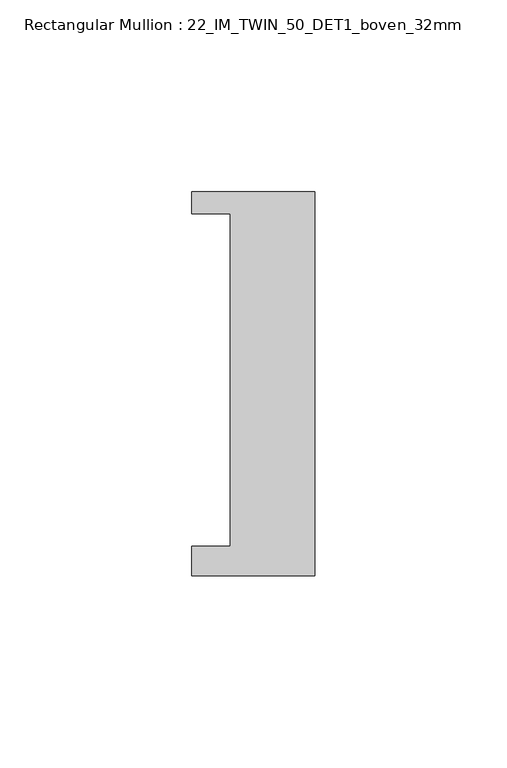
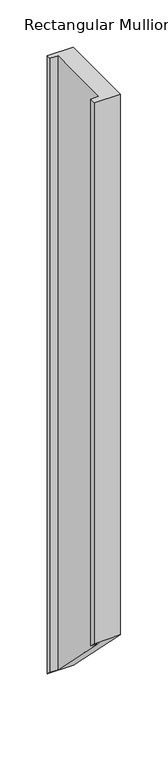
"""IFC4 building model written with IfcOpenShell, lengths in millimetres: member geometry, Rectangular Mullion : 22_IM_TWIN_50_DET1_boven_32mm."""

from ifc_helpers import new_model, si_unit, origin, place, context, project, spatial, faceted_brep, source, transform, mapped, element, save


def rectangular_mullion_22_im_twin_50_det1_boven_32mm_71473a51(model_context):
    return source(origin(), model_context, "Body", "Brep", [
        faceted_brep([(-32.0, 50.0, 0.0), (-32.0, 44.3, 0.0), (-22.0, 44.3, 0.0), (-22.0, -42.3, 0.0), (-32.0, -42.3, 0.0), (-32.0, -50.0, 0.0), (0.0, -50.0, 0.0), (0.0, 50.0, 0.0), (-32.0, 50.0, -800.0), (-32.0, 44.3, -794.3), (-22.0, 44.3, -794.3), (-22.0, -42.3, -707.7), (-32.0, -42.3, -707.7), (-32.0, -50.0, -700.0), (0.0, -50.0, -700.0), (0.0, 50.0, -800.0)], [[[0, 1, 2, 3, 4, 5, 6, 7]], [[1, 0, 8, 9]], [[2, 1, 9, 10]], [[3, 2, 10, 11]], [[4, 3, 11, 12]], [[5, 4, 12, 13]], [[6, 5, 13, 14]], [[7, 6, 14, 15]], [[0, 7, 15, 8]], [[8, 15, 14, 13, 12, 11, 10, 9]]]),
    ])


if __name__ == "__main__":
    model = new_model("IFC4")
    model_context = context("Model", 3, world=origin())
    ifc_project = project(units=[si_unit("LENGTHUNIT", "METRE", prefix="MILLI")], contexts=[model_context])
    site = spatial("IfcSite", under=ifc_project)
    building = spatial("IfcBuilding", under=site)
    placement = place(None, origin())
    rectangular_mullion_22_im_twin_50_det1_boven_32mm_shape = rectangular_mullion_22_im_twin_50_det1_boven_32mm_71473a51(model_context)
    element("IfcMember", 1, ObjectType="Rectangular Mullion : 22_IM_TWIN_50_DET1_boven_32mm", at=placement, inside=building, context=model_context, shape_type="MappedRepresentation", body=[
        mapped(rectangular_mullion_22_im_twin_50_det1_boven_32mm_shape, transform((0.0, 0.0, 0.0), x_axis=(1.0, 0.0, 0.0), y_axis=(0.0, 1.0, 0.0), z_axis=(0.0, 0.0, 1.0))),
    ])
    save(model, "model.ifc")
